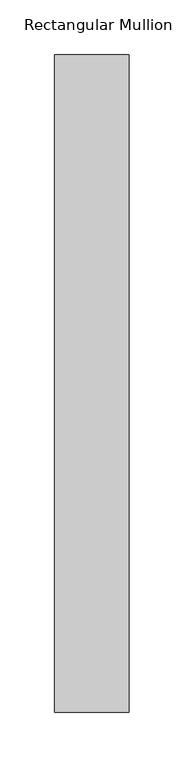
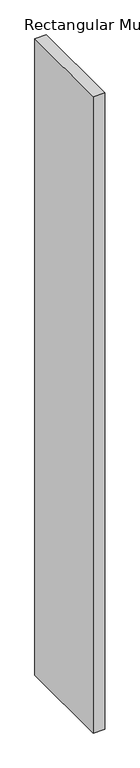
"""IFC4 building model written with IfcOpenShell, lengths in millimetres: member geometry, Rectangular Mullion : DucoSun Cubic Design louvre 600."""

from ifc_helpers import new_model, si_unit, frame, origin, place, context, project, spatial, polyline, outline, extrude, source, transform, mapped, element, save


def rectangular_mullion_b76d229c(model_context):
    return source(origin(), model_context, "Body", "SweptSolid", [
        extrude(outline(polyline([(0.0, -600.0), (-68.0, -600.0), (-68.0, 0.0), (0.0, 0.0), (0.0, -600.0)])), frame((0.0, 0.0, -4000.0), z_axis=(0.0, 0.0, 1.0), x_axis=(1.0, 0.0, 0.0)), (0.0, 0.0, 1.0), 4000.0),
    ])


if __name__ == "__main__":
    model = new_model("IFC4")
    model_context = context("Model", 3, world=origin())
    ifc_project = project(units=[si_unit("LENGTHUNIT", "METRE", prefix="MILLI")], contexts=[model_context])
    site = spatial("IfcSite", under=ifc_project)
    building = spatial("IfcBuilding", under=site)
    placement = place(None, origin())
    rectangular_mullion_shape = rectangular_mullion_b76d229c(model_context)
    element("IfcMember", 1, ObjectType="Rectangular Mullion : DucoSun Cubic Design louvre 600", at=placement, inside=building, context=model_context, shape_type="MappedRepresentation", body=[
        mapped(rectangular_mullion_shape, transform((0.0, 0.0, 0.0), x_axis=(1.0, 0.0, 0.0), y_axis=(0.0, 1.0, 0.0), z_axis=(0.0, 0.0, 1.0))),
    ])
    save(model, "model.ifc")
